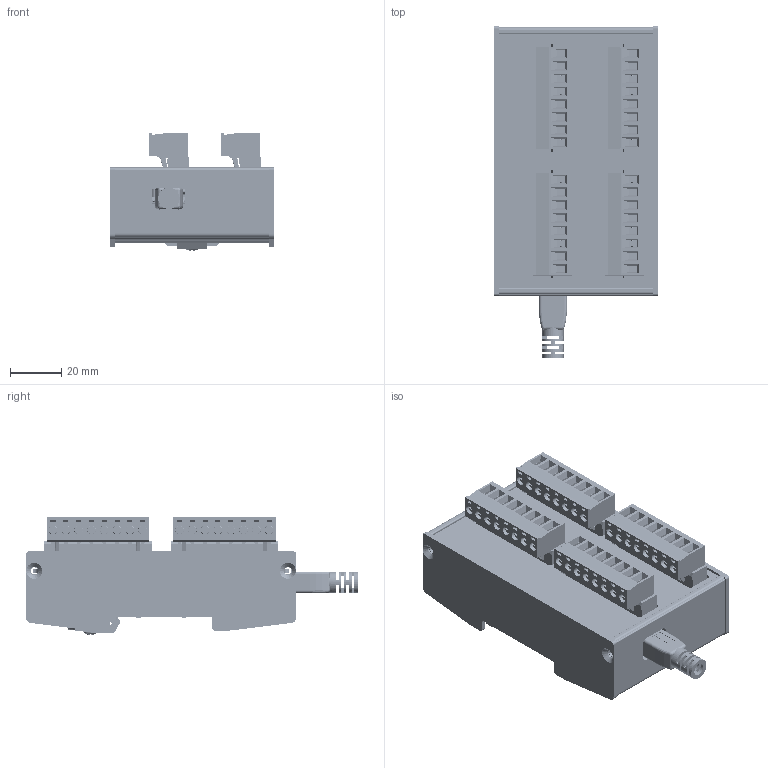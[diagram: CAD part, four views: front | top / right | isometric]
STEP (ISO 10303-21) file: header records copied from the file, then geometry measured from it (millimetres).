
FILE_DESCRIPTION (( 'STEP AP214' ), '1' );
FILE_NAME ('102404 (Parts) (2017-01-24).STEP', '2017-01-24T19:28:23', ( '' ), ( '' ), 'SwSTEP 2.0', 'SolidWorks 2016', '' );
FILE_SCHEMA (( 'AUTOMOTIVE_DESIGN' ));
Length unit declared in the file: millimetre
Products named in the file (9): 87309020_AR-R; io_board_8in8out (2); USBFIREWIRE_COM-MBS; ARP 105_31-70; alurail_105_side; controller board (3); Sticker - 1; IO_board_8in8out_front_panel; 102404 (Parts) (2017-01-24)
Assembly tree (9 placements, depth 2):
  102404 (Parts) (2017-01-24)
    controller board (3)
    io_board_8in8out (2)
    87309020_AR-R
    alurail_105_side  x2
    ARP 105_31-70
    IO_board_8in8out_front_panel
    USBFIREWIRE_COM-MBS
    Sticker - 1
Bounding box: 64 x 129.54 x 45.91 mm (x, y, z)
Volume: 96035.7 mm3; surface area: 164042.8 mm2
Topology: 384 solids, 389 shells, 21660 faces, 57697 edges, 36857 vertices
Faces by surface type: plane 14666, cylinder 5871, bspline 727, cone 362, torus 32, sphere 2
Entity records: 910580 total; most frequent: CARTESIAN_POINT 137218, ORIENTED_EDGE 114648, DIRECTION 108886, EDGE_CURVE 57329, LINE 43922, VECTOR 43922, VERTEX_POINT 36809, AXIS2_PLACEMENT_3D 32482
